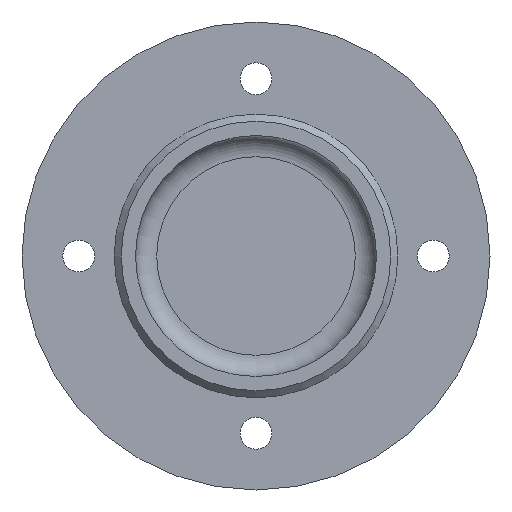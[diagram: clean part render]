
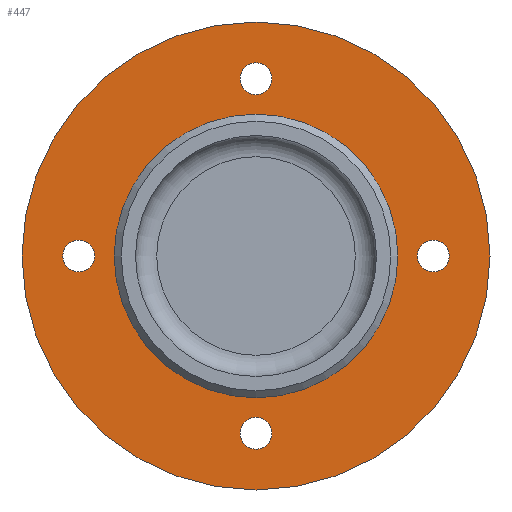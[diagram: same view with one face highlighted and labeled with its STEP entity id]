
A CAD part, left-side view. The second image highlights one B-rep face of the part: STEP entity #447.
In plain terms, the highlighted planar face has unit normal (-1, 0, 0).
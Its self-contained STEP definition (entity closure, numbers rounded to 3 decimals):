
#26=FACE_BOUND('',#137,.T.);
#27=FACE_BOUND('',#138,.T.);
#28=FACE_BOUND('',#139,.T.);
#29=FACE_BOUND('',#140,.T.);
#30=FACE_BOUND('',#141,.T.);
#41=PLANE('',#541);
#104=FACE_OUTER_BOUND('',#136,.T.);
#136=EDGE_LOOP('',(#412));
#137=EDGE_LOOP('',(#413));
#138=EDGE_LOOP('',(#414));
#139=EDGE_LOOP('',(#415));
#140=EDGE_LOOP('',(#416));
#141=EDGE_LOOP('',(#417));
#150=CIRCLE('',#485,20.);
#167=CIRCLE('',#505,33.);
#177=CIRCLE('',#522,2.25);
#180=CIRCLE('',#528,2.25);
#183=CIRCLE('',#534,2.25);
#186=CIRCLE('',#540,2.25);
#194=VERTEX_POINT('',#723);
#210=VERTEX_POINT('',#760);
#219=VERTEX_POINT('',#857);
#222=VERTEX_POINT('',#868);
#225=VERTEX_POINT('',#879);
#228=VERTEX_POINT('',#890);
#239=EDGE_CURVE('',#194,#194,#150,.T.);
#258=EDGE_CURVE('',#210,#210,#167,.T.);
#276=EDGE_CURVE('',#219,#219,#177,.T.);
#281=EDGE_CURVE('',#222,#222,#180,.T.);
#286=EDGE_CURVE('',#225,#225,#183,.T.);
#291=EDGE_CURVE('',#228,#228,#186,.T.);
#412=ORIENTED_EDGE('',*,*,#258,.F.);
#413=ORIENTED_EDGE('',*,*,#276,.T.);
#414=ORIENTED_EDGE('',*,*,#281,.T.);
#415=ORIENTED_EDGE('',*,*,#286,.T.);
#416=ORIENTED_EDGE('',*,*,#291,.T.);
#417=ORIENTED_EDGE('',*,*,#239,.T.);
#447=ADVANCED_FACE('',(#104,#26,#27,#28,#29,#30),#41,.T.);
#485=AXIS2_PLACEMENT_3D('',#724,#574,#575);
#505=AXIS2_PLACEMENT_3D('',#762,#616,#617);
#522=AXIS2_PLACEMENT_3D('',#859,#653,#654);
#528=AXIS2_PLACEMENT_3D('',#870,#667,#668);
#534=AXIS2_PLACEMENT_3D('',#881,#681,#682);
#540=AXIS2_PLACEMENT_3D('',#892,#695,#696);
#541=AXIS2_PLACEMENT_3D('',#893,#697,#698);
#574=DIRECTION('center_axis',(1.,0.,0.));
#575=DIRECTION('ref_axis',(0.,0.,-1.));
#616=DIRECTION('center_axis',(1.,0.,0.));
#617=DIRECTION('ref_axis',(0.,0.,-1.));
#653=DIRECTION('center_axis',(1.,0.,0.));
#654=DIRECTION('ref_axis',(0.,-1.,0.));
#667=DIRECTION('center_axis',(1.,0.,0.));
#668=DIRECTION('ref_axis',(0.,0.,1.));
#681=DIRECTION('center_axis',(1.,0.,0.));
#682=DIRECTION('ref_axis',(0.,1.,0.));
#695=DIRECTION('center_axis',(1.,0.,0.));
#696=DIRECTION('ref_axis',(0.,0.,-1.));
#697=DIRECTION('center_axis',(-1.,0.,0.));
#698=DIRECTION('ref_axis',(0.,0.,1.));
#723=CARTESIAN_POINT('',(3.,-20.,0.));
#724=CARTESIAN_POINT('Origin',(3.,0.,0.));
#760=CARTESIAN_POINT('',(3.,-33.,0.));
#762=CARTESIAN_POINT('Origin',(3.,0.,0.));
#857=CARTESIAN_POINT('',(3.,2.25,-25.));
#859=CARTESIAN_POINT('Origin',(3.,0.,-25.));
#868=CARTESIAN_POINT('',(3.,-25.,-2.25));
#870=CARTESIAN_POINT('Origin',(3.,-25.,0.));
#879=CARTESIAN_POINT('',(3.,-2.25,25.));
#881=CARTESIAN_POINT('Origin',(3.,0.,25.));
#890=CARTESIAN_POINT('',(3.,25.,2.25));
#892=CARTESIAN_POINT('Origin',(3.,25.,0.));
#893=CARTESIAN_POINT('Origin',(3.,33.,0.));
